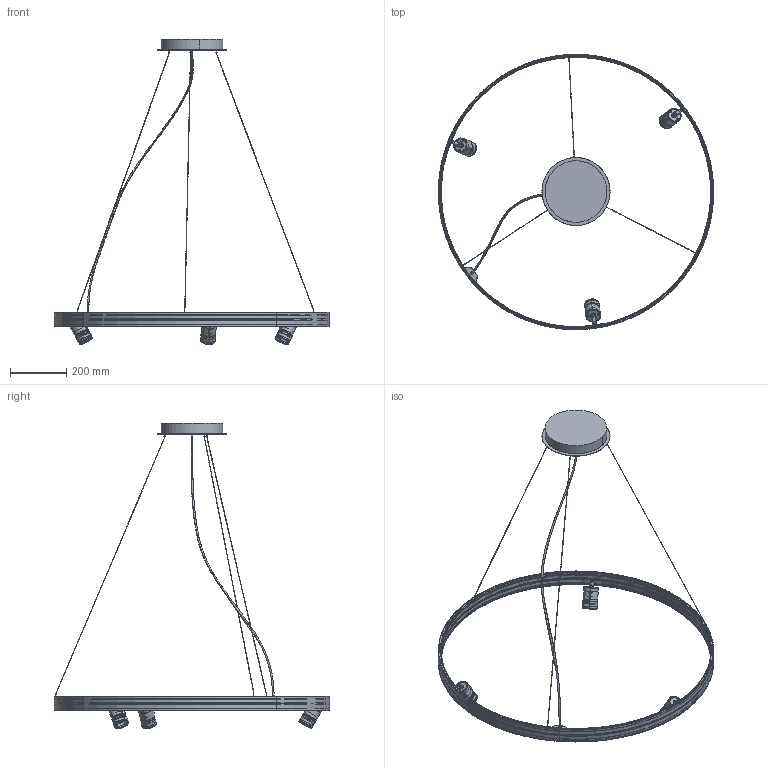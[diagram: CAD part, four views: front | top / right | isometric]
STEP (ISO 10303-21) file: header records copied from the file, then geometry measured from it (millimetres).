
FILE_DESCRIPTION(/* description */ (''),/* implementation_level */ '2;1');
FILE_NAME(/* name */ 'L074__.100',/* time_stamp */ '2024-06-18T17:18:14+02:00',/* author */ (''),/* organization */ (''),/* preprocessor_version */ 'ST-DEVELOPER v16.5',/* originating_system */ '',/* authorisation */ '');
FILE_SCHEMA (('AUTOMOTIVE_DESIGN'));
Products named in the file (31): Document; 3300.0193000.00 (profilo curvo Arena ALL 8,6x53mm D est. 983mm)_3306.
0193360.00; Blocco 26; 3500.0014000.00 (schermo piano zigrinato VETRO D 46mm sp 4 Ivela 98-0
4074-58)_3500.0014000.00; Blocco 50; 3100.0057000.00 (cilindro di chiusura con sede schermo PBT+FV nero D 
50,6mm H 33mm Ivela 94-04139A-30)_3100.0057000.00; Blocco 36; 3300.0207000.00 (fondello faretto ALL D 47,4mm H 11,5mm Ivela 95-0414
0-00)_3300.0207000.00; Blocco 11; 3300.0206000.00 (corpo faretto ALL D 53mm H 75mm Ivela 95-04138-00)_3
300.0206000.00; Blocco 13; 3100.0052000.00 (schermo estruso Giplast 09PE79 PC 19x3,8mm per curva
 D int. 963,2mm)_3101.0052360.98; Blocco 46; 3100.0052000.00 (schermo estruso Giplast 09PE79 PC 19x3,8mm per curva
 D int. 963,2mm)_3101.0052053.00; Blocco 32; 3100.0052000.00 (schermo estruso Giplast 09PE79 PC 19x3,8mm per curva
 D int. 963,2mm)_3101.0052112.98; Blocco 19; Cavo^L074__.100.0518; Blocco 57; Fune^L074__.100.0518; Blocco 54; 3200.0468000.00 (copertura piastrina di fissaggio faretto ACC 70x23,4
x4mm sp 0,7)_3209.0468000.00; Blocco 06; 3100.0058000.00 (copertura snodo 2 movimenti NY+FV bianco 11,4x22,8x9
,5mm Ivela 94-04143-31)_3100.0058000.00; Blocco 43; 3200.0466000.00 (copertura giunzione ACC 71,1x22,4mm H 40,5mm sp 1)_3
209.0466001.00; Blocco 18; 3200.0360000.00 (piastra di rinforzo rosone ACC D 243mm sp 1,2)_3201.
0360011.00; Blocco 56; 5205.0001010.00 (raccordo fresato OTTONE D 12mm sp 3 gambo H 10mm M10
x1 Sacla 13501)_5205.0001010.00; Blocco 52
Assembly tree (45 placements, depth 3):
  Document
    3300.0193000.00 (profilo curvo Arena ALL 8,6x53mm D est. 983mm)_3306.
0193360.00
      Blocco 26
    3500.0014000.00 (schermo piano zigrinato VETRO D 46mm sp 4 Ivela 98-0
4074-58)_3500.0014000.00  x3
      Blocco 50
    3100.0057000.00 (cilindro di chiusura con sede schermo PBT+FV nero D 
50,6mm H 33mm Ivela 94-04139A-30)_3100.0057000.00  x2
      Blocco 36
    3300.0207000.00 (fondello faretto ALL D 47,4mm H 11,5mm Ivela 95-0414
0-00)_3300.0207000.00  x3
      Blocco 11
    3300.0206000.00 (corpo faretto ALL D 53mm H 75mm Ivela 95-04138-00)_3
300.0206000.00  x3
      Blocco 13
    3100.0052000.00 (schermo estruso Giplast 09PE79 PC 19x3,8mm per curva
 D int. 963,2mm)_3101.0052360.98
      Blocco 46
    3100.0052000.00 (schermo estruso Giplast 09PE79 PC 19x3,8mm per curva
 D int. 963,2mm)_3101.0052053.00  x2
      Blocco 32
    3100.0052000.00 (schermo estruso Giplast 09PE79 PC 19x3,8mm per curva
 D int. 963,2mm)_3101.0052112.98  x2
      Blocco 19
    Cavo^L074__.100.0518
      Blocco 57
    Fune^L074__.100.0518  x3
      Blocco 54
    Blocco 36
    3200.0468000.00 (copertura piastrina di fissaggio faretto ACC 70x23,4
x4mm sp 0,7)_3209.0468000.00  x3
      Blocco 06
    3100.0058000.00 (copertura snodo 2 movimenti NY+FV bianco 11,4x22,8x9
,5mm Ivela 94-04143-31)_3100.0058000.00  x2
      Blocco 43
    3200.0466000.00 (copertura giunzione ACC 71,1x22,4mm H 40,5mm sp 1)_3
209.0466001.00
      Blocco 18
    3200.0360000.00 (piastra di rinforzo rosone ACC D 243mm sp 1,2)_3201.
0360011.00
      Blocco 56
    5205.0001010.00 (raccordo fresato OTTONE D 12mm sp 3 gambo H 10mm M10
x1 Sacla 13501)_5205.0001010.00
      Blocco 52
Bounding box: 982.96 x 983 x 1089.4 mm (x, y, z)
Volume: 1420819.9 mm3; surface area: 1230951.6 mm2
Topology: 7 solids, 1409 shells, 1594 faces, 7790 edges, 7591 vertices
Faces by surface type: bspline 1043, plane 551
Entity records: 93374 total; most frequent: CARTESIAN_POINT 69246, ORIENTED_EDGE 5198, EDGE_CURVE 4720, VERTEX_POINT 4545, B_SPLINE_CURVE_WITH_KNOTS 2136, EDGE_LOOP 1097, ADVANCED_FACE 1017, FACE_OUTER_BOUND 1017
